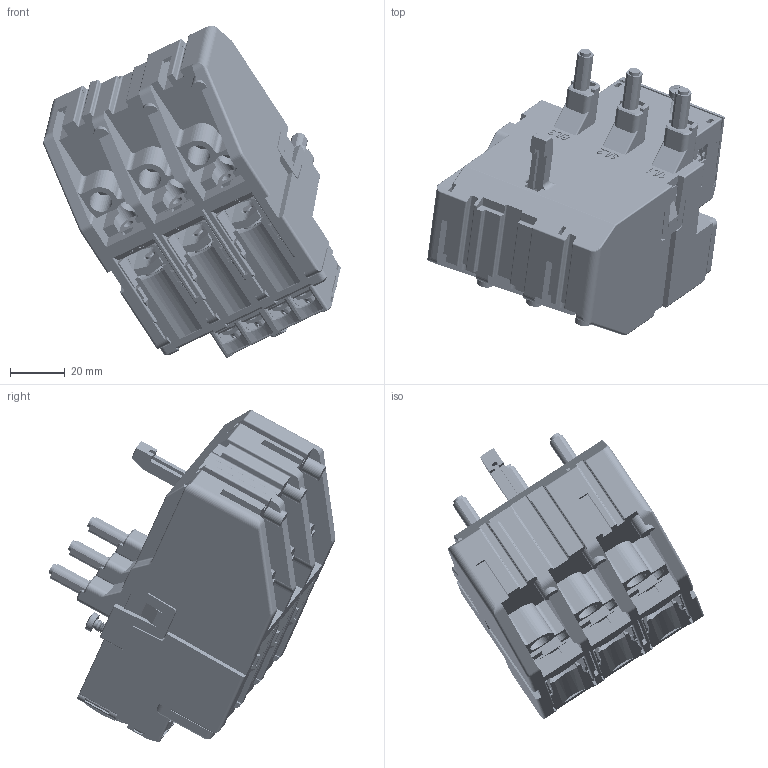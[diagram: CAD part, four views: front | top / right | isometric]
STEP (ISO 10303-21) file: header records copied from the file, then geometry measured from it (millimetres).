
FILE_DESCRIPTION(/* description */ (''),/* implementation_level */ '2;1');
FILE_NAME(/* name */ 'NXR-100-0802.stp',/* time_stamp */ '2017-08-03T14:19:21+08:00',/* author */ (''),/* organization */ (''),/* preprocessor_version */ 'ST-DEVELOPER v11',/* originating_system */ 'SIEMENS PLM Software NX 7.5',/* authorisation */ '');
FILE_SCHEMA (('AUTOMOTIVE_DESIGN { 1 0 10303 214 1 1 1 1 }'));
Products named in the file (65): %-69%-55%-58%-843_sldprt; %-74%-81%-76%-91%-75%-29_sldprt; %-42%-89%-68%-362_sldprt; %-66%-78%-76%-91%-75%-29_sldprt; jiechuban009_sldprt; %-42%-89%-68%-361_sldprt; %-66%-75%-49%-14%-42%-89%-68%-3611_sldprt; %-69%-55%-58%-844_sldprt; %-72%-88%-53%-85_sldprt; %-77%-92%-42%-31_sldprt; %-62%-35%-74%-92_sldprt; 93%-55%-49%-75%-68%-80%-27_sldprt; %-78%-18%-74%-81%-72%-36%-72%-53_sldprt; 93%-75%-68%-80%-27_sldprt; 8ZTD-510-367-1~2; 8ZTD-510-366; 93%-53%-85%-67%-16%-54%-12%-44%-86%-68%-2_sldprt; 93%-75%-25%-56%-56%-78%-60%-63%-49_sldprt; 93%-66%-8%-44%-75%-75%-26%-58%-84_sldprt; 93%-68%-48%-41%-45_sldprt; 93lianjieban_sldprt; 93%-75%-25%-56%-56%-78%-60%-63%-492_sldprt; %-42%-89%-41%-7N_sldprt; %-72%-76%-50%-69%-80%-76%-59%-91_sldprt; %-78%-30%-54%-44%-80%-76%-59%-91_sldprt; %-51%-58%-72%-53_sldprt; Part1_sldprt; tuibai_sldprt; %-51%-71%-62%-42007_sldprt; %-42%-31%-77%-48%-41%-7_sldprt; %-74%-52%-42%-31_sldprt; %-74%-52%-72%-36%-72%-53_sldprt; %-77%-92%-72%-36%-72%-53_sldprt; %-42%-72%-54%-66%-68%-2_sldprt; %-47%-71%-69%-55_sldprt; %-47%-71%-69%-551_sldprt; %-47%-71%-69%-552_sldprt; %-64%-83%-69%-55_sldprt; anniu27_sldprt; 93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
Assembly tree (81 placements, depth 5):
  NXR-100-0802
    8ZTT-005-087
    8ZTD-315-1153
    8ZTD-304-209
    8ZTD-304-207
    8ZTD-315-1155
    M3.5%-95%_MODEL  x4
      M3.5%-95%-638%-62%-35%-74%-92_sldprt
    5ZTT-574-003  x3
      931561
      931560
      111
      93
    M4X8_step  x7
    5ZTT-043-004-3
      anniu27_sldprt
      %-72%-88%-53%-85_sldasm
        %-62%-35%-74%-92_sldprt
        %-77%-92%-42%-31_sldprt
        %-72%-88%-53%-85_sldprt
      5550021%-76%-91%-51%-73_sldasm
        %-69%-55%-58%-844_sldprt
        %-67%-45%-76%-91%-57%-59_sldasm
          %-74%-81%-76%-91%-75%-29_sldprt
        %-66%-75%-49%-14%-42%-89%-68%-3611_sldprt
      5550020%-76%-91%-51%-73_sldasm
        %-67%-45%-76%-91%-57%-591_sldasm
          %-69%-55%-58%-843_sldprt
          %-74%-81%-76%-91%-75%-29_sldprt
        %-42%-89%-68%-361_sldprt
      %-64%-83%-69%-55_sldprt
      %-47%-71%-69%-552_sldprt
      %-47%-71%-69%-551_sldprt
      %-47%-71%-69%-55_sldprt
      %-42%-72%-54%-66%-68%-2_sldprt
      %-77%-92%-72%-36%-72%-53_sldprt
      %-74%-52%-72%-36%-72%-53_sldprt
      %-74%-52%-42%-31_sldprt
      %-42%-31%-77%-48%-41%-7_sldprt
      %-51%-71%-62%-42007_sldprt
      tuibai_sldprt
      Part1_sldprt
      %-51%-58%-72%-53_sldprt
      %-78%-30%-54%-44%-80%-76%-59%-91_sldprt
      %-72%-76%-50%-69%-80%-76%-59%-91_sldprt
      %-42%-89%-68%-363_sldasm
        jiechuban009_sldprt
        %-66%-78%-76%-91%-75%-29_sldprt
      %-76%-91%-51%-731_sldasm
        %-66%-78%-76%-91%-75%-29_sldprt
        %-42%-89%-68%-362_sldprt
      %-42%-89%-41%-7N_sldprt
    8ZTT-420-023-1-7  x3
      93%-75%-25%-56%-56%-78%-60%-63%-492_sldprt
      93lianjieban_sldprt
      93%-68%-48%-41%-45_sldprt
      93%-66%-8%-44%-75%-75%-26%-58%-84_sldprt
      93%-75%-25%-56%-56%-78%-60%-63%-49_sldprt
      93%-53%-85%-67%-16%-54%-12%-44%-86%-68%-2_sldprt
      8ZTD-510-366
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Bounding box: 108.56 x 104.67 x 121.15 mm (x, y, z)
Volume: 198686.7 mm3; surface area: 192709.2 mm2
Topology: 114 solids, 114 shells, 8321 faces, 22580 edges, 14559 vertices
Faces by surface type: plane 5893, cylinder 1426, cone 705, bspline 98, torus 60, revolution 55, extrusion 52, sphere 32
Full cylindrical faces by diameter (mm): 0.5 x4, 1 x12, 1.5 x13, 1.6 x12, 1.8 x9, 1.9 x1, 2 x21, 2.1 x14, 2.2 x2, 2.3 x3, 2.4 x4, 2.7 x1, 2.8 x2, 3 x15, 3.2 x1, 3.464 x8, 3.5 x12, 4 x24, 4.1 x4, 4.2 x6, 4.4 x3, 4.5 x6, 4.6 x4, 6 x12, 8.2 x6, 9.5 x3, 11.8 x2
Entity records: 227949 total; most frequent: CARTESIAN_POINT 54483, ORIENTED_EDGE 35690, DIRECTION 32089, EDGE_CURVE 17845, VECTOR 14022, LINE 13970, VERTEX_POINT 11819, AXIS2_PLACEMENT_3D 9014
